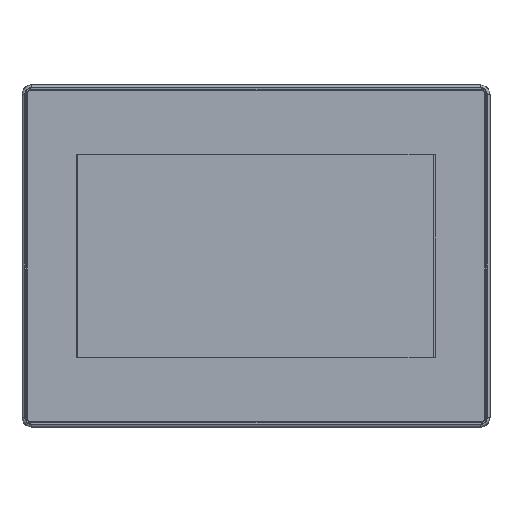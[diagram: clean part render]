
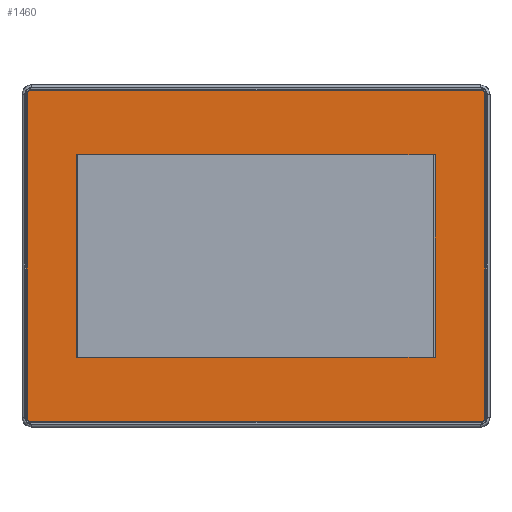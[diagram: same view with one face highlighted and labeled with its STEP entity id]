
A CAD part, top view. The second image highlights one B-rep face of the part: STEP entity #1460.
In plain terms, the highlighted planar face has unit normal (0, 0, 1).
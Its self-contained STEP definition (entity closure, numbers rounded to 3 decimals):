
#1106 = AXIS2_PLACEMENT_3D ( 'NONE', #132430, #157044, #22794 ) ;
#1460 = ADVANCED_FACE ( 'NONE', ( #131645, #142776 ), #24343, .F. ) ;
#1821 = DIRECTION ( 'NONE',  ( -1., 0., 0. ) ) ;
#7354 = CARTESIAN_POINT ( 'NONE',  ( -76.775, 69.237, 4.03 ) ) ;
#7406 = VERTEX_POINT ( 'NONE', #63453 ) ;
#8602 = CARTESIAN_POINT ( 'NONE',  ( -95.8, -70.863, 4.03 ) ) ;
#11520 = VECTOR ( 'NONE', #29262, 1000. ) ;
#12185 = VERTEX_POINT ( 'NONE', #72069 ) ;
#15695 = AXIS2_PLACEMENT_3D ( 'NONE', #33013, #69571, #91809 ) ;
#15824 = ORIENTED_EDGE ( 'NONE', *, *, #120541, .T. ) ;
#16580 = CARTESIAN_POINT ( 'NONE',  ( 76.875, 69.237, 4.03 ) ) ;
#18462 = DIRECTION ( 'NONE',  ( 1., 0., 0. ) ) ;
#18560 = ORIENTED_EDGE ( 'NONE', *, *, #136389, .F. ) ;
#20026 = CARTESIAN_POINT ( 'NONE',  ( 96.2, -68.863, 4.03 ) ) ;
#21018 = DIRECTION ( 'NONE',  ( -1., 0., 0. ) ) ;
#21998 = VERTEX_POINT ( 'NONE', #56627 ) ;
#22131 = CARTESIAN_POINT ( 'NONE',  ( 98.2, -68.863, 4.03 ) ) ;
#22794 = DIRECTION ( 'NONE',  ( 0., -1., 0. ) ) ;
#24095 = VECTOR ( 'NONE', #135751, 1000. ) ;
#24343 = PLANE ( 'NONE',  #1106 ) ;
#25562 = VERTEX_POINT ( 'NONE', #45916 ) ;
#26439 = CARTESIAN_POINT ( 'NONE',  ( -76.775, -43.143, 4.03 ) ) ;
#28470 = LINE ( 'NONE', #51550, #24095 ) ;
#29262 = DIRECTION ( 'NONE',  ( 0., 1., 0. ) ) ;
#30352 = DIRECTION ( 'NONE',  ( 0., 0., 1. ) ) ;
#33013 = CARTESIAN_POINT ( 'NONE',  ( -95.8, 69.237, 4.03 ) ) ;
#33017 = CIRCLE ( 'NONE', #106582, 2. ) ;
#33727 = CARTESIAN_POINT ( 'NONE',  ( -95.8, 71.237, 4.03 ) ) ;
#39419 = VERTEX_POINT ( 'NONE', #155899 ) ;
#40138 = VERTEX_POINT ( 'NONE', #143377 ) ;
#40322 = VECTOR ( 'NONE', #54743, 1000. ) ;
#41959 = VECTOR ( 'NONE', #150698, 1000. ) ;
#45634 = LINE ( 'NONE', #33727, #103783 ) ;
#45916 = CARTESIAN_POINT ( 'NONE',  ( -95.8, -70.863, 4.03 ) ) ;
#48783 = DIRECTION ( 'NONE',  ( 0., 0., 1. ) ) ;
#51550 = CARTESIAN_POINT ( 'NONE',  ( 96.2, -43.143, 4.03 ) ) ;
#52854 = EDGE_CURVE ( 'NONE', #12185, #25562, #120071, .T. ) ;
#54743 = DIRECTION ( 'NONE',  ( 1., 0., 0. ) ) ;
#55567 = DIRECTION ( 'NONE',  ( -1., 0., 0. ) ) ;
#56627 = CARTESIAN_POINT ( 'NONE',  ( 76.875, -43.143, 4.03 ) ) ;
#56739 = CARTESIAN_POINT ( 'NONE',  ( 96.2, -70.863, 4.03 ) ) ;
#59647 = VECTOR ( 'NONE', #142178, 1000. ) ;
#59691 = EDGE_CURVE ( 'NONE', #95423, #75622, #135013, .T. ) ;
#59730 = EDGE_CURVE ( 'NONE', #60770, #40138, #84200, .T. ) ;
#60670 = CARTESIAN_POINT ( 'NONE',  ( 96.2, 69.237, 4.03 ) ) ;
#60770 = VERTEX_POINT ( 'NONE', #114296 ) ;
#61914 = LINE ( 'NONE', #16580, #11520 ) ;
#62152 = ORIENTED_EDGE ( 'NONE', *, *, #145852, .T. ) ;
#63453 = CARTESIAN_POINT ( 'NONE',  ( 76.875, 43.477, 4.03 ) ) ;
#66711 = DIRECTION ( 'NONE',  ( 0., 0., 1. ) ) ;
#69004 = LINE ( 'NONE', #8602, #40322 ) ;
#69571 = DIRECTION ( 'NONE',  ( 0., 0., 1. ) ) ;
#72069 = CARTESIAN_POINT ( 'NONE',  ( -97.8, -68.863, 4.03 ) ) ;
#72698 = ORIENTED_EDGE ( 'NONE', *, *, #137016, .F. ) ;
#75622 = VERTEX_POINT ( 'NONE', #103459 ) ;
#77052 = CARTESIAN_POINT ( 'NONE',  ( -95.8, -68.863, 4.03 ) ) ;
#81210 = ORIENTED_EDGE ( 'NONE', *, *, #136355, .F. ) ;
#81884 = EDGE_CURVE ( 'NONE', #127542, #124244, #129713, .T. ) ;
#83147 = ORIENTED_EDGE ( 'NONE', *, *, #59730, .T. ) ;
#84200 = CIRCLE ( 'NONE', #15695, 2. ) ;
#88561 = EDGE_CURVE ( 'NONE', #75622, #39419, #114175, .T. ) ;
#88806 = EDGE_CURVE ( 'NONE', #127134, #95423, #33017, .T. ) ;
#90301 = CARTESIAN_POINT ( 'NONE',  ( -97.8, -68.863, 4.03 ) ) ;
#91809 = DIRECTION ( 'NONE',  ( -1., 0., 0. ) ) ;
#93700 = CARTESIAN_POINT ( 'NONE',  ( 96.2, 43.477, 4.03 ) ) ;
#95423 = VERTEX_POINT ( 'NONE', #22131 ) ;
#96870 = VECTOR ( 'NONE', #136560, 1000. ) ;
#96947 = CARTESIAN_POINT ( 'NONE',  ( -76.775, 43.477, 4.03 ) ) ;
#98411 = CARTESIAN_POINT ( 'NONE',  ( 98.2, -68.863, 4.03 ) ) ;
#98612 = EDGE_CURVE ( 'NONE', #40138, #12185, #136438, .T. ) ;
#100302 = ORIENTED_EDGE ( 'NONE', *, *, #88806, .T. ) ;
#101825 = AXIS2_PLACEMENT_3D ( 'NONE', #60670, #48783, #1821 ) ;
#102851 = ORIENTED_EDGE ( 'NONE', *, *, #59691, .T. ) ;
#103459 = CARTESIAN_POINT ( 'NONE',  ( 98.2, 69.237, 4.03 ) ) ;
#103783 = VECTOR ( 'NONE', #21018, 1000. ) ;
#105395 = EDGE_LOOP ( 'NONE', ( #72698, #18560, #137489, #81210 ) ) ;
#106582 = AXIS2_PLACEMENT_3D ( 'NONE', #20026, #30352, #18462 ) ;
#106905 = ORIENTED_EDGE ( 'NONE', *, *, #52854, .T. ) ;
#114175 = CIRCLE ( 'NONE', #101825, 2. ) ;
#114296 = CARTESIAN_POINT ( 'NONE',  ( -95.8, 71.237, 4.03 ) ) ;
#118590 = ORIENTED_EDGE ( 'NONE', *, *, #88561, .T. ) ;
#120071 = CIRCLE ( 'NONE', #135298, 2. ) ;
#120541 = EDGE_CURVE ( 'NONE', #39419, #60770, #45634, .T. ) ;
#122380 = EDGE_LOOP ( 'NONE', ( #145082, #106905, #62152, #100302, #102851, #118590, #15824, #83147 ) ) ;
#124244 = VERTEX_POINT ( 'NONE', #26439 ) ;
#127134 = VERTEX_POINT ( 'NONE', #56739 ) ;
#127542 = VERTEX_POINT ( 'NONE', #96947 ) ;
#129713 = LINE ( 'NONE', #7354, #131478 ) ;
#131478 = VECTOR ( 'NONE', #153550, 1000. ) ;
#131645 = FACE_OUTER_BOUND ( 'NONE', #122380, .T. ) ;
#132430 = CARTESIAN_POINT ( 'NONE',  ( 96.2, 69.237, 4.03 ) ) ;
#135013 = LINE ( 'NONE', #98411, #96870 ) ;
#135298 = AXIS2_PLACEMENT_3D ( 'NONE', #77052, #66711, #55567 ) ;
#135751 = DIRECTION ( 'NONE',  ( 1., 0., 0. ) ) ;
#136355 = EDGE_CURVE ( 'NONE', #7406, #127542, #144509, .T. ) ;
#136389 = EDGE_CURVE ( 'NONE', #124244, #21998, #28470, .T. ) ;
#136438 = LINE ( 'NONE', #90301, #41959 ) ;
#136560 = DIRECTION ( 'NONE',  ( 0., 1., 0. ) ) ;
#137016 = EDGE_CURVE ( 'NONE', #21998, #7406, #61914, .T. ) ;
#137489 = ORIENTED_EDGE ( 'NONE', *, *, #81884, .F. ) ;
#142178 = DIRECTION ( 'NONE',  ( -1., 0., 0. ) ) ;
#142776 = FACE_BOUND ( 'NONE', #105395, .T. ) ;
#143377 = CARTESIAN_POINT ( 'NONE',  ( -97.8, 69.237, 4.03 ) ) ;
#144509 = LINE ( 'NONE', #93700, #59647 ) ;
#145082 = ORIENTED_EDGE ( 'NONE', *, *, #98612, .T. ) ;
#145852 = EDGE_CURVE ( 'NONE', #25562, #127134, #69004, .T. ) ;
#150698 = DIRECTION ( 'NONE',  ( 0., -1., 0. ) ) ;
#153550 = DIRECTION ( 'NONE',  ( 0., -1., 0. ) ) ;
#155899 = CARTESIAN_POINT ( 'NONE',  ( 96.2, 71.237, 4.03 ) ) ;
#157044 = DIRECTION ( 'NONE',  ( 0., 0., -1. ) ) ;
